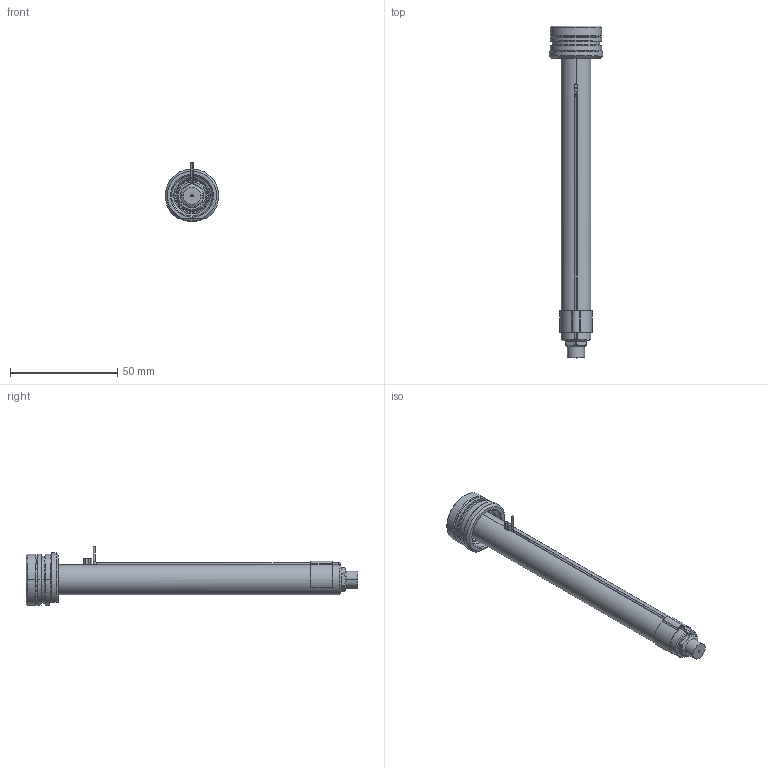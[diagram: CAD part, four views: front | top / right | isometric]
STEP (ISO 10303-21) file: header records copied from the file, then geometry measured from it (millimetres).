
FILE_DESCRIPTION((''),'2;1');
FILE_NAME('EO04_PG-FB_WR_140_SW','2024-02-19T11:24:14',('sundharh'),(''),'CREO PARAMETRIC BY PTC INC, 2023154','CREO PARAMETRIC BY PTC INC, 2023154','');
FILE_SCHEMA(('CONFIG_CONTROL_DESIGN'));
Length unit declared in the file: millimetre
Products named in the file (1): EO04_PG-FB_WR_140_SW
Bounding box: 24.99 x 155 x 27.5 mm (x, y, z)
Volume: 25141.1 mm3; surface area: 12279.1 mm2
Topology: 2 solids, 2 shells, 223 faces, 599 edges, 366 vertices
Faces by surface type: cylinder 84, plane 59, cone 44, torus 22, bspline 11, sphere 3
Entity records: 8318 total; most frequent: CARTESIAN_POINT 2689, DIRECTION 1223, ORIENTED_EDGE 1182, EDGE_CURVE 591, AXIS2_PLACEMENT_3D 513, VERTEX_POINT 366, CIRCLE 301, EDGE_LOOP 239
